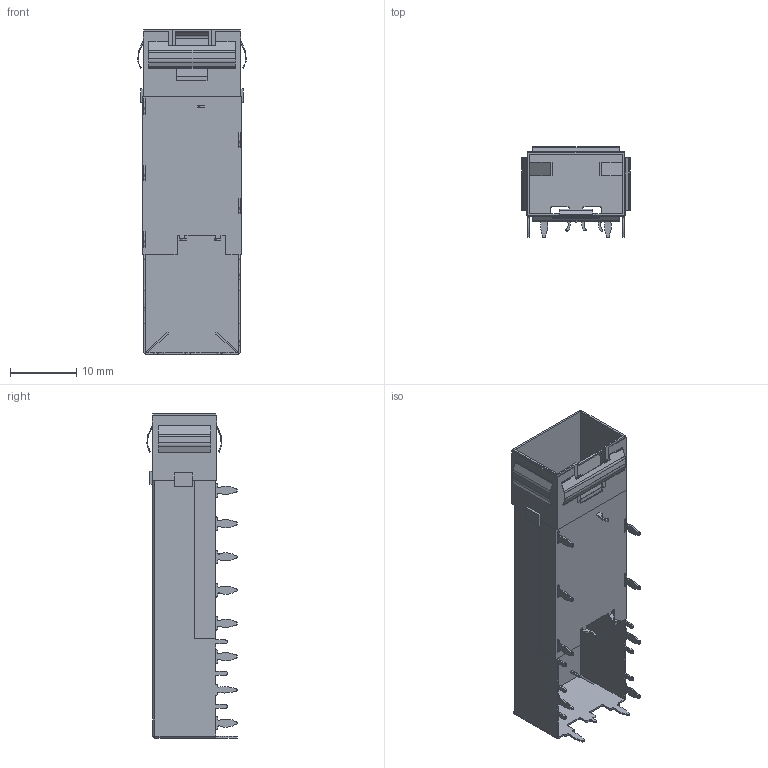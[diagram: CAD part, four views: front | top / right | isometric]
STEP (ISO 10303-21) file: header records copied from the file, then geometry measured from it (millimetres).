
FILE_DESCRIPTION (( 'STEP AP203' ), '1' );
FILE_NAME ('SFP+ 1X1 揤諉褐衄堎挴.STEP', '2024-05-29T00:08:26', ( '' ), ( '' ), 'SwSTEP 2.0', 'SolidWorks 2018', '' );
FILE_SCHEMA (( 'CONFIG_CONTROL_DESIGN' ));
Length unit declared in the file: millimetre
Products named in the file (1): SFP+ 1X1 揤諉褐衄堎挴
Bounding box: 16.3 x 13.55 x 48.75 mm (x, y, z)
Volume: 669.2 mm3; surface area: 4924.5 mm2
Topology: 1 solids, 1 shells, 484 faces, 1473 edges, 994 vertices
Faces by surface type: plane 265, cylinder 217, sphere 2
Entity records: 16694 total; most frequent: CARTESIAN_POINT 2950, ORIENTED_EDGE 2942, DIRECTION 2875, EDGE_CURVE 1471, VECTOR 1037, LINE 1037, VERTEX_POINT 994, AXIS2_PLACEMENT_3D 919
